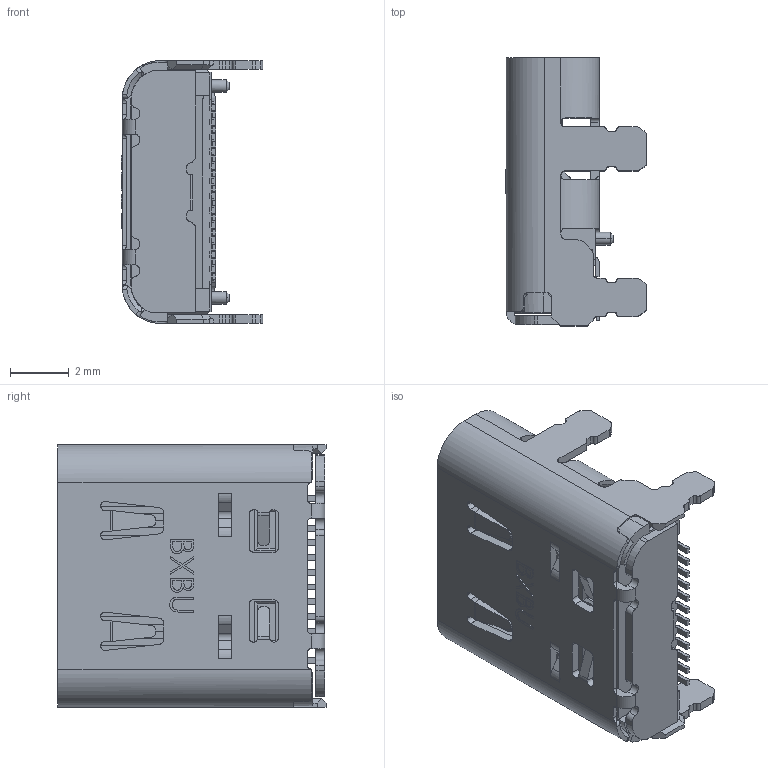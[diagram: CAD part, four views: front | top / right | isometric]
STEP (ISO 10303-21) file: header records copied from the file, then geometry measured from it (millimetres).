
FILE_DESCRIPTION((' '),'2;1');
FILE_NAME( 'U5194-24PN1.6J9.17L.stp', '2026-05-11T17:22:26', (' '), ('--- ---'), ' V2026.1 Dec 31 2025', ' 2026 (c)', ' ');
FILE_SCHEMA(('AP242_MANAGED_MODEL_BASED_3D_ENGINEERING_MIM_LF { 1 0 10303 442 1 1 4 }'));
Length unit declared in the file: millimetre
Products named in the file (1): U5194-24PN1.6J9.17L1
Bounding box: 4.81 x 9.12 x 8.94 mm (x, y, z)
Volume: 136 mm3; surface area: 606.5 mm2
Topology: 1 solids, 2 shells, 1303 faces, 3749 edges, 2441 vertices
Faces by surface type: plane 845, cylinder 355, torus 44, bspline 31, cone 28
Entity records: 46060 total; most frequent: CARTESIAN_POINT 14491, ORIENTED_EDGE 7494, DIRECTION 5047, EDGE_CURVE 3749, VECTOR 2499, LINE 2499, VERTEX_POINT 2441, EDGE_LOOP 1347
